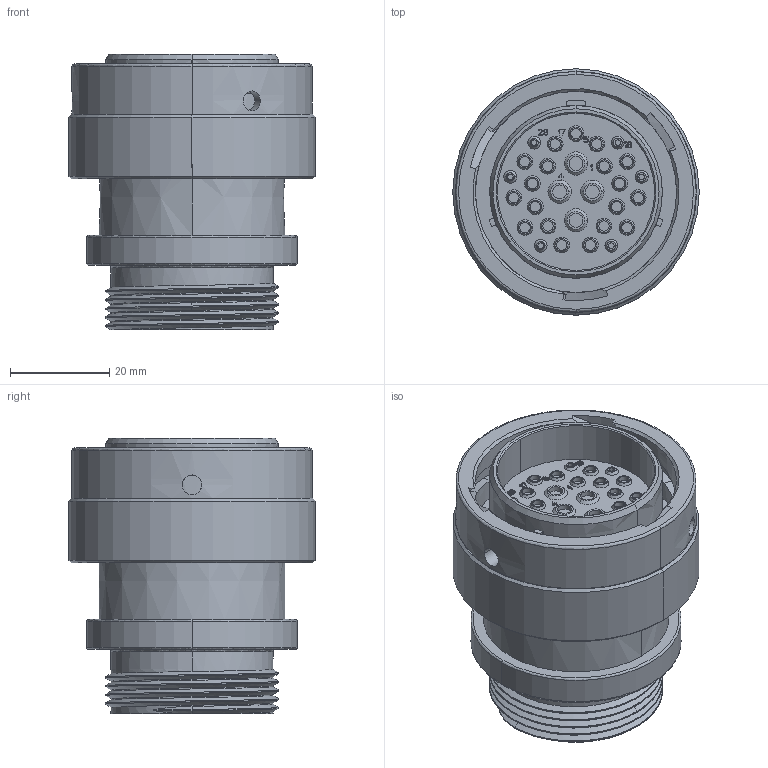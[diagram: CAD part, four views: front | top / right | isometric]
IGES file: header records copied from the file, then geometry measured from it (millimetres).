
Start section:  PTC IGES file: c-hdp26-24-29pe-l015-99-3d.igs
Global section: file name: c-hdp26-24-29pe-l015-99-3d.igs; native system: Pro/ENGINEER by Parametric Technology Corporation; preprocessor: 2011490; author: workeradm; organization: Unknown; units: millimetre
Bounding box: 49.53 x 49.53 x 55.45 mm (x, y, z)
Surface area: 19351.2 mm2 (no closed solid volume)
Topology: 0 solids, 0 shells, 809 faces, 3834 edges, 3834 vertices
Faces by surface type: bspline 433, revolution 376
